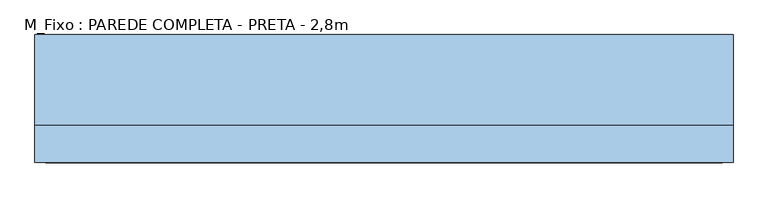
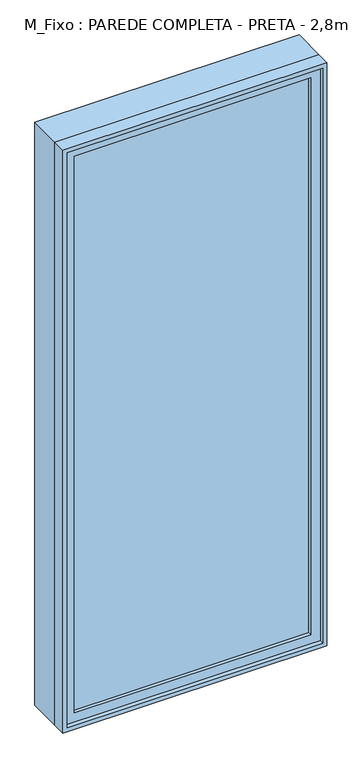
"""IFC4 building model written with IfcOpenShell, lengths in millimetres: window geometry, M_Fixo : PAREDE COMPLETA - PRETA - 2,8m."""

from ifc_helpers import new_model, si_unit, frame, origin, place, context, project, spatial, polyline, outline, extrude, source, transform, mapped, element, save


def m_fixo_parede_completa_preta_2_8m_2c26ef2c(model_context):
    return source(origin(), model_context, "Body", "SweptSolid", [
        extrude(outline(polyline([(-537.0, -87.0), (-537.0, -75.0), (537.0, -75.0), (537.0, -87.0), (-537.0, -87.0)])), frame((0.0, 0.0, 1563.0), z_axis=(0.0, 0.0, 1.0), x_axis=(1.0, 0.0, 0.0)), (0.0, 0.0, 1.0), 2674.0),
        extrude(outline(polyline([(4281.0, -581.0), (1519.0, -581.0), (1519.0, 581.0), (4281.0, 581.0), (4281.0, -581.0)]), holes=[polyline([(4237.0, -537.0), (4237.0, 537.0), (1563.0, 537.0), (1563.0, -537.0), (4237.0, -537.0)])]), frame((0.0, -103.0, 0.0), z_axis=(0.0, 1.0, 0.0), x_axis=(0.0, 0.0, 1.0)), (0.0, 0.0, 1.0), 44.0),
        extrude(outline(polyline([(4300.0, -600.0), (1500.0, -600.0), (1500.0, 600.0), (4300.0, 600.0), (4300.0, -600.0)]), holes=[polyline([(4281.0, -581.0), (4281.0, 581.0), (1519.0, 581.0), (1519.0, -581.0), (4281.0, -581.0)])]), frame((0.0, -123.0, 0.0), z_axis=(0.0, 1.0, 0.0), x_axis=(0.0, 0.0, 1.0)), (0.0, 0.0, 1.0), 64.0),
        extrude(outline(polyline([(4300.0, -600.0), (1500.0, -600.0), (1500.0, 600.0), (4300.0, 600.0), (4300.0, -600.0)]), holes=[polyline([(4268.0, -568.0), (4268.0, 568.0), (1532.0, 568.0), (1532.0, -568.0), (4268.0, -568.0)])]), frame((0.0, -59.0, 0.0), z_axis=(0.0, 1.0, 0.0), x_axis=(0.0, 0.0, 1.0)), (0.0, 0.0, 1.0), 156.0),
    ])


if __name__ == "__main__":
    model = new_model("IFC4")
    model_context = context("Model", 3, world=origin())
    ifc_project = project(units=[si_unit("LENGTHUNIT", "METRE", prefix="MILLI")], contexts=[model_context])
    site = spatial("IfcSite", under=ifc_project)
    building = spatial("IfcBuilding", under=site)
    placement = place(None, origin())
    m_fixo_parede_completa_preta_2_8m_shape = m_fixo_parede_completa_preta_2_8m_2c26ef2c(model_context)
    element("IfcWindow", 1, ObjectType="M_Fixo : PAREDE COMPLETA - PRETA - 2,8m", at=placement, inside=building, context=model_context, shape_type="MappedRepresentation", body=[
        mapped(m_fixo_parede_completa_preta_2_8m_shape, transform((0.0, 0.0, 0.0), x_axis=(1.0, 0.0, 0.0), y_axis=(0.0, 1.0, 0.0), z_axis=(0.0, 0.0, 1.0))),
    ])
    save(model, "model.ifc")
